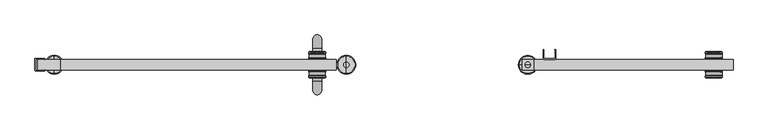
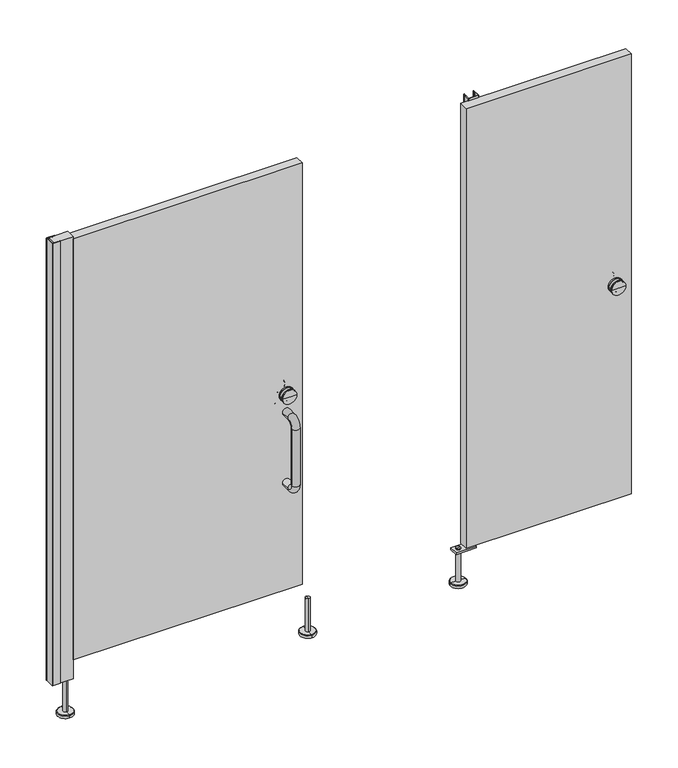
"""IFC4 building model written with IfcOpenShell, lengths in millimetres: proxy geometry, Partition_EuroStyle-Bradley_Corp-ADAStall_1StandardStall-LOFT : Partition_EuroStyle-Bradley_Corp-ADAStall_1StandardStall-LOFT."""

from ifc_helpers import new_model, si_unit, point, frame, frame_2d, origin, place, context, project, spatial, polyline, circle_curve, ellipse_curve, trimmed, segment, composite_curve, outline, extrude, source, transform, mapped, element, save
from ifc_brep_helpers import plane_surface, cylinder_surface, revolved_surface, advanced_brep


def specialty_equipment_b5675cf3(model_context):
    return source(origin(), model_context, "Body", "SolidModel", [
        extrude(outline(polyline([(146.0000008, 1477.4203258), (138.0669895, 1477.4203258), (138.0669895, 1557.2675589), (146.0000008, 1557.1689968), (146.0000008, 1477.4203258)])), frame((0.0, -1559.4621549, 0.0), z_axis=(0.0, 1.0, 0.0), x_axis=(0.0, 0.0, 1.0)), (0.0, 0.0, 1.0), 34.925),
        advanced_brep(
        [(1505.0203248, -1541.9996549, 150.0000008), (1487.0203255, -1541.9996549, 150.0000008), (1487.0203255, -1541.9996549, 12.0000001), (1505.0203248, -1541.9996549, 12.0000001), (1496.0203251, -1541.9996549, 150.0000008), (1527.0203241, -1541.9996549, 0.0), (1465.0203262, -1541.9996549, 0.0), (1496.0203251, -1541.9996549, 0.0), (1527.0203241, -1541.9996549, 10.0000001), (1465.0203262, -1541.9996549, 10.0000001), (1525.0179122, -1541.9996549, 12.0000001), (1467.0227381, -1541.9996549, 12.0000001)],
        [
            (0, 1, circle_curve(frame((1496.0203251, -1541.9996549, 150.0000008), z_axis=(0.0, 0.0, -1.0), x_axis=(-1.0, 0.0, 0.0)), 8.9999997)),
            (1, 2),
            (2, 3, circle_curve(frame((1496.0203251, -1541.9996549, 12.0000001), z_axis=(0.0, 0.0, 1.0), x_axis=(-1.0, 0.0, 0.0)), 8.9999997)),
            (3, 0),
            (1, 0, circle_curve(frame((1496.0203251, -1541.9996549, 150.0000008), z_axis=(0.0, 0.0, -1.0), x_axis=(-1.0, 0.0, 0.0)), 8.9999997)),
            (3, 2, circle_curve(frame((1496.0203251, -1541.9996549, 12.0000001), z_axis=(0.0, 0.0, 1.0), x_axis=(-1.0, 0.0, 0.0)), 8.9999997)),
            (4, 1),
            (0, 4),
            (5, 6, circle_curve(frame((1496.0203251, -1541.9996549, 0.0), z_axis=(0.0, 0.0, -1.0), x_axis=(-1.0, 0.0, 0.0)), 30.9999989)),
            (6, 7),
            (7, 5),
            (6, 5, circle_curve(frame((1496.0203251, -1541.9996549, 0.0), z_axis=(0.0, 0.0, -1.0), x_axis=(-1.0, 0.0, 0.0)), 30.9999989)),
            (8, 9, circle_curve(frame((1496.0203251, -1541.9996549, 10.0000001), z_axis=(0.0, 0.0, -1.0), x_axis=(-1.0, 0.0, 0.0)), 30.9999989)),
            (9, 6),
            (5, 8),
            (9, 8, circle_curve(frame((1496.0203251, -1541.9996549, 10.0000001), z_axis=(0.0, 0.0, -1.0), x_axis=(-1.0, 0.0, 0.0)), 30.9999989)),
            (10, 11, circle_curve(frame((1496.0203251, -1541.9996549, 12.0000001), z_axis=(0.0, 0.0, -1.0), x_axis=(-1.0, 0.0, 0.0)), 28.997587)),
            (11, 9),
            (8, 10),
            (11, 10, circle_curve(frame((1496.0203251, -1541.9996549, 12.0000001), z_axis=(0.0, 0.0, -1.0), x_axis=(-1.0, 0.0, 0.0)), 28.997587)),
            (2, 11),
            (10, 3),
        ],
        [
            cylinder_surface(frame((1496.0203251, -1541.9996549, 0.0), z_axis=(0.0, 0.0, 1.0), x_axis=(-1.0, 0.0, 0.0)), 8.9999997),
            plane_surface(frame((1496.0203251, -1541.9996549, 150.0000008), z_axis=(0.0, 0.0, 1.0), x_axis=(-1.0, 0.0, 0.0))),
            plane_surface(frame((1496.0203251, -1541.9996549, 0.0), z_axis=(0.0, 0.0, -1.0), x_axis=(-1.0, 0.0, 0.0))),
            cylinder_surface(frame((1496.0203251, -1541.9996549, 0.0), z_axis=(0.0, 0.0, 1.0), x_axis=(-1.0, 0.0, 0.0)), 30.9999989),
            revolved_surface(polyline([(1465.0203262, -1541.9996549, 10.0000001), (1467.0227381, -1541.9996549, 12.0000001)]), (1496.0203251, -1541.9996549, 0.0), (0.0, 0.0, 1.0)),
            plane_surface(frame((1496.0203251, -1541.9996549, 12.0000001), z_axis=(0.0, 0.0, 1.0), x_axis=(-1.0, 0.0, 0.0))),
        ],
        [
            (0, [[1, 2, 3, 4]]),
            (0, [[5, -4, 6, -2]]),
            (1, [[7, -1, 8]]),
            (1, [[-8, -5, -7]]),
            (2, [[9, 10, 11]]),
            (2, [[12, -11, -10]]),
            (3, [[13, 14, -9, 15]]),
            (3, [[16, -15, -12, -14]]),
            (4, [[17, 18, -13, 19]]),
            (4, [[20, -19, -16, -18]]),
            (5, [[-3, 21, -17, 22]]),
            (5, [[-6, -22, -20, -21]]),
        ],
    ),
        extrude(outline(composite_curve([segment(polyline([(1546.918717, -1491.4999998), (1548.4173026, -1491.4999998)]), True, "CONTINUOUS"), segment(trimmed(circle_curve(frame_2d((1548.4137352, -1492.4990918)), 0.9990984), [point((1548.4173026, -1491.4999998))], [point((1548.8873879, -1493.3787798))], False, "CARTESIAN"), True, "CONTINUOUS"), segment(polyline([(1548.8873879, -1493.3787798), (1548.7662779, -1500.6424298)]), True, "CONTINUOUS"), segment(trimmed(circle_curve(frame_2d((1548.248732, -1501.4999449)), 1.0015917), [point((1548.7662779, -1500.6424298))], [point((1548.7373979, -1502.3742398))], False, "CARTESIAN"), True, "CONTINUOUS"), segment(polyline([(1548.7373979, -1502.3742398), (1548.4433424, -1520.0104531)]), True, "CONTINUOUS"), segment(trimmed(circle_curve(frame_2d((1550.4435342, -1519.9997796)), 2.0002204), [point((1548.4433424, -1520.0104531))], [point((1550.4435342, -1522.0))], True, "CARTESIAN"), True, "CONTINUOUS"), segment(polyline([(1550.4435342, -1522.0), (1584.3278332, -1522.0)]), True, "CONTINUOUS"), segment(trimmed(circle_curve(frame_2d((1584.3768528, -1520.0009061)), 1.9996948), [point((1584.3278332, -1522.0))], [point((1586.3765475, -1520.0))], True, "CARTESIAN"), True, "CONTINUOUS"), segment(polyline([(1586.3765475, -1520.0), (1586.0824961, -1502.3739987)]), True, "CONTINUOUS"), segment(trimmed(circle_curve(frame_2d((1586.5715932, -1501.4999449)), 1.0015917), [point((1586.0824961, -1502.3739987))], [point((1586.0540473, -1500.6424298))], False, "CARTESIAN"), True, "CONTINUOUS"), segment(polyline([(1586.0540473, -1500.6424298), (1585.9329373, -1493.3787798)]), True, "CONTINUOUS"), segment(trimmed(circle_curve(frame_2d((1586.4065899, -1492.4990918)), 0.9990984), [point((1585.9329373, -1493.3787798))], [point((1586.4030225, -1491.4999998))], False, "CARTESIAN"), True, "CONTINUOUS"), segment(polyline([(1586.4030225, -1491.4999998), (1587.9016081, -1491.4999998), (1588.4099473, -1521.97082)]), True, "CONTINUOUS"), segment(trimmed(circle_curve(frame_2d((1586.3807672, -1521.97082)), 2.02918), [point((1588.4099473, -1521.97082))], [point((1586.3807672, -1524.0))], False, "CARTESIAN"), True, "CONTINUOUS"), segment(polyline([(1586.3807672, -1524.0), (1548.4395579, -1524.0)]), True, "CONTINUOUS"), segment(trimmed(circle_curve(frame_2d((1548.4395579, -1521.97082)), 2.02918), [point((1548.4395579, -1524.0))], [point((1546.4103779, -1521.97082))], False, "CARTESIAN"), True, "CONTINUOUS"), segment(polyline([(1546.4103779, -1521.97082), (1546.918717, -1491.4999998)]), True, "CONTINUOUS")], self_intersect=False)), frame((0.0, 0.0, 150.0), z_axis=(0.0, 0.0, 1.0), x_axis=(1.0, 0.0, 0.0)), (0.0, 0.0, 1.0), 1855.0),
        advanced_brep(
        [(787.6, -1524.0, 975.0), (817.6, -1524.0, 975.0), (787.6, -1524.0, 679.0), (817.6, -1524.0, 679.0), (817.6, -1488.0, 975.0), (787.6, -1488.0, 975.0), (817.6, -1458.0, 945.0), (817.6, -1458.0, 709.0), (787.6, -1458.0, 709.0), (787.6, -1458.0, 945.0), (817.6, -1488.0, 679.0), (787.6, -1488.0, 679.0)],
        [
            (0, 1, circle_curve(frame((802.6, -1524.0, 975.0), z_axis=(0.0, -1.0, 0.0), x_axis=(1.0000000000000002, 0.0, 0.0)), 15.0)),
            (1, 0, circle_curve(frame((802.6, -1524.0, 975.0), z_axis=(0.0, -1.0, 0.0), x_axis=(1.0000000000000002, 0.0, 0.0)), 15.0)),
            (2, 3, circle_curve(frame((802.6, -1524.0, 679.0), z_axis=(0.0, -1.0, 0.0), x_axis=(1.0000000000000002, 0.0, 0.0)), 15.0)),
            (3, 2, circle_curve(frame((802.6, -1524.0, 679.0), z_axis=(0.0, -1.0, 0.0), x_axis=(1.0000000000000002, 0.0, 0.0)), 15.0)),
            (1, 4),
            (4, 5, circle_curve(frame((802.6, -1488.0, 975.0), z_axis=(0.0, -1.0, 0.0), x_axis=(1.0000000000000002, 0.0, 0.0)), 15.0)),
            (5, 0),
            (5, 4, circle_curve(frame((802.6, -1488.0, 975.0), z_axis=(0.0, -1.0, 0.0), x_axis=(1.0000000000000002, 0.0, 0.0)), 15.0)),
            (6, 7),
            (7, 8, circle_curve(frame((802.6, -1458.0, 709.0), z_axis=(0.0, 0.0, 1.0), x_axis=(1.0000000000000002, 0.0, 0.0)), 15.0)),
            (8, 9),
            (9, 6, circle_curve(frame((802.6, -1458.0, 945.0), z_axis=(0.0, 0.0, -1.0), x_axis=(1.0000000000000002, 0.0, 0.0)), 15.0)),
            (8, 7, circle_curve(frame((802.6, -1458.0, 709.0), z_axis=(0.0, 0.0, 1.0), x_axis=(1.0000000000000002, 0.0, 0.0)), 15.0)),
            (6, 9, circle_curve(frame((802.6, -1458.0, 945.0), z_axis=(0.0, 0.0, -1.0), x_axis=(1.0000000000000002, 0.0, 0.0)), 15.0)),
            (10, 3),
            (2, 11),
            (11, 10, circle_curve(frame((802.6, -1488.0, 679.0), z_axis=(0.0, -1.0, 0.0), x_axis=(1.0000000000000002, 0.0, 0.0)), 15.0)),
            (10, 11, circle_curve(frame((802.6, -1488.0, 679.0), z_axis=(0.0, -1.0, 0.0), x_axis=(1.0000000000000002, 0.0, 0.0)), 15.0)),
            (9, 5, circle_curve(frame((787.6, -1488.0, 945.0), z_axis=(1.0, 0.0, 0.0), x_axis=(0.0, 0.0, 1.0)), 30.0)),
            (4, 6, circle_curve(frame((817.6, -1488.0, 945.0), z_axis=(-1.0, 0.0, 0.0), x_axis=(0.0, 0.0, 1.0)), 30.0)),
            (11, 8, circle_curve(frame((787.6, -1488.0, 709.0), z_axis=(1.0, 0.0, 0.0), x_axis=(0.0, 1.0000000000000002, 0.0)), 30.0)),
            (7, 10, circle_curve(frame((817.6, -1488.0, 709.0), z_axis=(-1.0, 0.0, 0.0), x_axis=(0.0, 1.0000000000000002, 0.0)), 30.0)),
        ],
        [
            plane_surface(frame((802.6, -1524.0, 975.0), z_axis=(0.0, -1.0, 0.0), x_axis=(1.0, 0.0, 0.0))),
            plane_surface(frame((802.6, -1524.0, 679.0), z_axis=(0.0, -1.0, 0.0), x_axis=(1.0, 0.0, 0.0))),
            cylinder_surface(frame((802.6, -1524.0, 975.0), z_axis=(0.0, -1.0000000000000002, 0.0), x_axis=(1.0000000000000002, 0.0, 0.0)), 15.0),
            cylinder_surface(frame((802.6, -1458.0, 945.0), z_axis=(0.0, 0.0, 1.0), x_axis=(1.0000000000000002, 0.0, 0.0)), 15.0),
            cylinder_surface(frame((802.6, -1488.0, 679.0), z_axis=(0.0, 1.0000000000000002, 0.0), x_axis=(1.0000000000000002, 0.0, 0.0)), 15.0),
            revolved_surface(trimmed(ellipse_curve(frame((802.6, -1488.0, 975.0), z_axis=(0.0, 1.0000000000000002, 0.0), x_axis=(1.0000000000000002, 0.0, 0.0)), 15.0, 15.0), [point((787.6, -1488.0, 975.0))], [point((817.6, -1488.0, 975.0))], True, "CARTESIAN"), (802.6, -1488.0, 945.0), (1.0000000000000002, 0.0, 0.0)),
            revolved_surface(trimmed(ellipse_curve(frame((802.6, -1488.0, 975.0), z_axis=(0.0, 1.0000000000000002, 0.0), x_axis=(1.0000000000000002, 0.0, 0.0)), 15.0, 15.0), [point((817.6, -1488.0, 975.0))], [point((787.6, -1488.0, 975.0))], True, "CARTESIAN"), (802.6, -1488.0, 945.0), (1.0000000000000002, 0.0, 0.0)),
            revolved_surface(trimmed(ellipse_curve(frame((802.6, -1458.0, 709.0), z_axis=(0.0, 0.0, -1.0), x_axis=(1.0000000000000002, 0.0, 0.0)), 15.0, 15.0), [point((787.6, -1458.0, 709.0))], [point((817.6, -1458.0, 709.0))], True, "CARTESIAN"), (802.6, -1488.0, 709.0), (1.0000000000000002, 0.0, 0.0)),
            revolved_surface(trimmed(ellipse_curve(frame((802.6, -1458.0, 709.0), z_axis=(0.0, 0.0, -1.0), x_axis=(1.0000000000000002, 0.0, 0.0)), 15.0, 15.0), [point((817.6, -1458.0, 709.0))], [point((787.6, -1458.0, 709.0))], True, "CARTESIAN"), (802.6, -1488.0, 709.0), (1.0000000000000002, 0.0, 0.0)),
        ],
        [
            (0, [[1, 2]]),
            (1, [[3, 4]]),
            (2, [[5, 6, 7, -2]]),
            (2, [[-7, 8, -5, -1]]),
            (3, [[9, 10, 11, 12]]),
            (3, [[-11, 13, -9, 14]]),
            (4, [[15, -3, 16, 17]]),
            (4, [[-16, -4, -15, 18]]),
            (5, [[-12, 19, -6, 20]]),
            (6, [[-14, -20, -8, -19]]),
            (7, [[-17, 21, -10, 22]]),
            (8, [[-18, -22, -13, -21]]),
        ],
    ),
        advanced_brep(
        [(787.6, -1560.0203251, 975.0), (817.6, -1560.0203251, 975.0), (787.6, -1560.0203251, 679.0), (817.6, -1560.0203251, 679.0), (787.6, -1596.0203251, 975.0), (817.6, -1596.0203251, 975.0), (817.6, -1626.0203251, 945.0), (787.6, -1626.0203251, 945.0), (787.6, -1626.0203251, 709.0), (817.6, -1626.0203251, 709.0), (817.6, -1596.0203251, 679.0), (787.6, -1596.0203251, 679.0)],
        [
            (0, 1, circle_curve(frame((802.6, -1560.0203251, 975.0), z_axis=(0.0, 1.0, 0.0), x_axis=(1.0000000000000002, 0.0, 0.0)), 15.0)),
            (1, 0, circle_curve(frame((802.6, -1560.0203251, 975.0), z_axis=(0.0, 1.0, 0.0), x_axis=(1.0000000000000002, 0.0, 0.0)), 15.0)),
            (2, 3, circle_curve(frame((802.6, -1560.0203251, 679.0), z_axis=(0.0, 1.0, 0.0), x_axis=(1.0000000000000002, 0.0, 0.0)), 15.0)),
            (3, 2, circle_curve(frame((802.6, -1560.0203251, 679.0), z_axis=(0.0, 1.0, 0.0), x_axis=(1.0000000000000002, 0.0, 0.0)), 15.0)),
            (0, 4),
            (4, 5, circle_curve(frame((802.6, -1596.0203251, 975.0), z_axis=(0.0, 1.0, 0.0), x_axis=(1.0000000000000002, 0.0, 0.0)), 15.0)),
            (5, 1),
            (5, 4, circle_curve(frame((802.6, -1596.0203251, 975.0), z_axis=(0.0, 1.0, 0.0), x_axis=(1.0000000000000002, 0.0, 0.0)), 15.0)),
            (6, 7, circle_curve(frame((802.6, -1626.0203251, 945.0), z_axis=(0.0, 0.0, -1.0), x_axis=(1.0000000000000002, 0.0, 0.0)), 15.0)),
            (7, 8),
            (8, 9, circle_curve(frame((802.6, -1626.0203251, 709.0), z_axis=(0.0, 0.0, 1.0), x_axis=(1.0000000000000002, 0.0, 0.0)), 15.0)),
            (9, 6),
            (7, 6, circle_curve(frame((802.6, -1626.0203251, 945.0), z_axis=(0.0, 0.0, -1.0), x_axis=(1.0000000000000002, 0.0, 0.0)), 15.0)),
            (9, 8, circle_curve(frame((802.6, -1626.0203251, 709.0), z_axis=(0.0, 0.0, 1.0), x_axis=(1.0000000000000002, 0.0, 0.0)), 15.0)),
            (10, 11, circle_curve(frame((802.6, -1596.0203251, 679.0), z_axis=(0.0, 1.0, 0.0), x_axis=(1.0000000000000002, 0.0, 0.0)), 15.0)),
            (11, 2),
            (3, 10),
            (11, 10, circle_curve(frame((802.6, -1596.0203251, 679.0), z_axis=(0.0, 1.0, 0.0), x_axis=(1.0000000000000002, 0.0, 0.0)), 15.0)),
            (6, 5, circle_curve(frame((817.6, -1596.0203251, 945.0), z_axis=(-1.0, 0.0, 0.0), x_axis=(0.0, 0.0, 1.0)), 30.0)),
            (4, 7, circle_curve(frame((787.6, -1596.0203251, 945.0), z_axis=(1.0, 0.0, 0.0), x_axis=(0.0, 0.0, 1.0)), 30.0)),
            (10, 9, circle_curve(frame((817.6, -1596.0203251, 709.0), z_axis=(-1.0, 0.0, 0.0), x_axis=(0.0, -1.0000000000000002, 0.0)), 30.0)),
            (8, 11, circle_curve(frame((787.6, -1596.0203251, 709.0), z_axis=(1.0, 0.0, 0.0), x_axis=(0.0, -1.0000000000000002, 0.0)), 30.0)),
        ],
        [
            plane_surface(frame((802.6, -1560.0203251, 975.0), z_axis=(0.0, 1.0, 0.0), x_axis=(1.0, 0.0, 0.0))),
            plane_surface(frame((802.6, -1560.0203251, 679.0), z_axis=(0.0, 1.0, 0.0), x_axis=(1.0, 0.0, 0.0))),
            cylinder_surface(frame((802.6, -1560.0203251, 975.0), z_axis=(0.0, 1.0000000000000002, 0.0), x_axis=(1.0000000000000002, 0.0, 0.0)), 15.0),
            cylinder_surface(frame((802.6, -1626.0203251, 945.0), z_axis=(0.0, 0.0, 1.0), x_axis=(1.0000000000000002, 0.0, 0.0)), 15.0),
            cylinder_surface(frame((802.6, -1596.0203251, 679.0), z_axis=(0.0, -1.0000000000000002, 0.0), x_axis=(1.0000000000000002, 0.0, 0.0)), 15.0),
            revolved_surface(trimmed(ellipse_curve(frame((802.6, -1596.0203251, 975.0), z_axis=(0.0, 1.0000000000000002, 0.0), x_axis=(1.0000000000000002, 0.0, 0.0)), 15.0, 15.0), [point((787.6, -1596.0203251, 975.0))], [point((817.6, -1596.0203251, 975.0))], True, "CARTESIAN"), (802.6, -1596.0203251, 945.0), (1.0000000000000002, 0.0, 0.0)),
            revolved_surface(trimmed(ellipse_curve(frame((802.6, -1596.0203251, 975.0), z_axis=(0.0, 1.0000000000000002, 0.0), x_axis=(1.0000000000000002, 0.0, 0.0)), 15.0, 15.0), [point((817.6, -1596.0203251, 975.0))], [point((787.6, -1596.0203251, 975.0))], True, "CARTESIAN"), (802.6, -1596.0203251, 945.0), (1.0000000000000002, 0.0, 0.0)),
            revolved_surface(trimmed(ellipse_curve(frame((802.6, -1626.0203251, 709.0), z_axis=(0.0, 0.0, 1.0), x_axis=(1.0000000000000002, 0.0, 0.0)), 15.0, 15.0), [point((787.6, -1626.0203251, 709.0))], [point((817.6, -1626.0203251, 709.0))], True, "CARTESIAN"), (802.6, -1596.0203251, 709.0), (1.0000000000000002, 0.0, 0.0)),
            revolved_surface(trimmed(ellipse_curve(frame((802.6, -1626.0203251, 709.0), z_axis=(0.0, 0.0, 1.0), x_axis=(1.0000000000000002, 0.0, 0.0)), 15.0, 15.0), [point((817.6, -1626.0203251, 709.0))], [point((787.6, -1626.0203251, 709.0))], True, "CARTESIAN"), (802.6, -1596.0203251, 709.0), (1.0000000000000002, 0.0, 0.0)),
        ],
        [
            (0, [[1, 2]]),
            (1, [[3, 4]]),
            (2, [[-1, 5, 6, 7]]),
            (2, [[-2, -7, 8, -5]]),
            (3, [[9, 10, 11, 12]]),
            (3, [[13, -12, 14, -10]]),
            (4, [[15, 16, -4, 17]]),
            (4, [[18, -17, -3, -16]]),
            (5, [[19, -6, 20, -9]]),
            (6, [[-20, -8, -19, -13]]),
            (7, [[21, -11, 22, -15]]),
            (8, [[-22, -14, -21, -18]]),
        ],
    ),
        advanced_brep(
        [(774.025, -1524.0203251, 1050.0), (831.175, -1524.0203251, 1050.0), (802.6, -1524.0203251, 1050.0), (774.025, -1519.2578251, 1050.0), (831.175, -1519.2578251, 1050.0), (774.025, -1500.2078251, 1050.0), (831.175, -1500.2078251, 1050.0), (831.175, -1504.9703251, 1050.0), (774.025, -1504.9703251, 1050.0), (829.5875, -1506.5578251, 1050.0), (775.6125, -1506.5578251, 1050.0), (829.5875, -1517.6703251, 1050.0), (775.6125, -1517.6703251, 1050.0), (802.6, -1498.6203251, 1050.0)],
        [
            (0, 1, circle_curve(frame((802.6, -1524.0203251, 1050.0), z_axis=(0.0, -1.0, 0.0), x_axis=(1.0000000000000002, 0.0, 0.0)), 28.575)),
            (1, 2),
            (2, 0),
            (1, 0, circle_curve(frame((802.6, -1524.0203251, 1050.0), z_axis=(0.0, -1.0, 0.0), x_axis=(1.0000000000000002, 0.0, 0.0)), 28.575)),
            (3, 4, circle_curve(frame((802.6, -1519.2578251, 1050.0), z_axis=(0.0, -1.0, 0.0), x_axis=(1.0000000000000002, 0.0, 0.0)), 28.575)),
            (4, 1),
            (0, 3),
            (4, 3, circle_curve(frame((802.6, -1519.2578251, 1050.0), z_axis=(0.0, -1.0, 0.0), x_axis=(1.0000000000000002, 0.0, 0.0)), 28.575)),
            (5, 6, circle_curve(frame((802.6, -1500.2078251, 1050.0), z_axis=(0.0, -1.0, 0.0), x_axis=(1.0000000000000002, 0.0, 0.0)), 28.575)),
            (6, 7),
            (7, 8, circle_curve(frame((802.6, -1504.9703251, 1050.0), z_axis=(0.0, 1.0, 0.0), x_axis=(1.0000000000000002, 0.0, 0.0)), 28.575)),
            (8, 5),
            (6, 5, circle_curve(frame((802.6, -1500.2078251, 1050.0), z_axis=(0.0, -1.0, 0.0), x_axis=(1.0000000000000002, 0.0, 0.0)), 28.575)),
            (8, 7, circle_curve(frame((802.6, -1504.9703251, 1050.0), z_axis=(0.0, 1.0, 0.0), x_axis=(1.0000000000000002, 0.0, 0.0)), 28.575)),
            (7, 9, circle_curve(frame((831.175, -1506.5578251, 1050.0), z_axis=(0.0, 0.0, 1.0), x_axis=(1.0000000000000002, 0.0, 0.0)), 1.5875)),
            (9, 10, circle_curve(frame((802.6, -1506.5578251, 1050.0), z_axis=(0.0, 1.0, 0.0), x_axis=(1.0000000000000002, 0.0, 0.0)), 26.9875)),
            (10, 8, circle_curve(frame((774.025, -1506.5578251, 1050.0), z_axis=(0.0, 0.0, 1.0), x_axis=(-1.0000000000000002, 0.0, 0.0)), 1.5875)),
            (10, 9, circle_curve(frame((802.6, -1506.5578251, 1050.0), z_axis=(0.0, 1.0, 0.0), x_axis=(1.0000000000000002, 0.0, 0.0)), 26.9875)),
            (9, 11),
            (11, 12, circle_curve(frame((802.6, -1517.6703251, 1050.0), z_axis=(0.0, 1.0, 0.0), x_axis=(1.0000000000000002, 0.0, 0.0)), 26.9875)),
            (12, 10),
            (12, 11, circle_curve(frame((802.6, -1517.6703251, 1050.0), z_axis=(0.0, 1.0, 0.0), x_axis=(1.0000000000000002, 0.0, 0.0)), 26.9875)),
            (11, 4, circle_curve(frame((831.175, -1517.6703251, 1050.0), z_axis=(0.0, 0.0, 1.0), x_axis=(1.0000000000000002, 0.0, 0.0)), 1.5875)),
            (3, 12, circle_curve(frame((774.025, -1517.6703251, 1050.0), z_axis=(0.0, 0.0, 1.0), x_axis=(-1.0000000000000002, 0.0, 0.0)), 1.5875)),
            (13, 6, circle_curve(frame((806.2941234, -1690.0948544, 1050.0), z_axis=(0.0, 0.0, -1.0), x_axis=(1.0000000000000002, 0.0, 0.0)), 191.5101613)),
            (5, 13, circle_curve(frame((798.9058766, -1690.0948544, 1050.0), z_axis=(0.0, 0.0, -1.0), x_axis=(-1.0000000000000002, 0.0, 0.0)), 191.5101613)),
        ],
        [
            plane_surface(frame((802.6, -1524.0203251, 1050.0), z_axis=(0.0, -1.0, 0.0), x_axis=(1.0, 0.0, 0.0))),
            cylinder_surface(frame((802.6, -1524.0203251, 1050.0), z_axis=(0.0, 1.0000000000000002, 0.0), x_axis=(1.0000000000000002, 0.0, 0.0)), 28.575),
            revolved_surface(trimmed(ellipse_curve(frame((831.175, -1506.5578251, 1050.0), z_axis=(0.0, 0.0, -1.0), x_axis=(1.0000000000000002, 0.0, 0.0)), 1.5875, 1.5875), [point((829.5875, -1506.5578251, 1050.0))], [point((831.175, -1504.9703251, 1050.0))], True, "CARTESIAN"), (802.6, -1524.0203251, 1050.0), (0.0, 1.0000000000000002, 0.0)),
            cylinder_surface(frame((802.6, -1524.0203251, 1050.0), z_axis=(0.0, 1.0000000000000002, 0.0), x_axis=(1.0000000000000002, 0.0, 0.0)), 26.9875),
            revolved_surface(trimmed(ellipse_curve(frame((831.175, -1517.6703251, 1050.0), z_axis=(0.0, 0.0, -1.0), x_axis=(1.0000000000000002, 0.0, 0.0)), 1.5875, 1.5875), [point((831.175, -1519.2578251, 1050.0))], [point((829.5875, -1517.6703251, 1050.0))], True, "CARTESIAN"), (802.6, -1524.0203251, 1050.0), (0.0, 1.0000000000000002, 0.0)),
            revolved_surface(trimmed(ellipse_curve(frame((806.2941234, -1690.0948544, 1050.0), z_axis=(0.0, 0.0, 1.0), x_axis=(1.0000000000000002, 0.0, 0.0)), 191.5101613, 191.5101613), [point((831.175, -1500.2078251, 1050.0))], [point((802.6, -1498.6203251, 1050.0))], True, "CARTESIAN"), (802.6, -1524.0203251, 1050.0), (0.0, 1.0000000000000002, 0.0)),
        ],
        [
            (0, [[1, 2, 3]]),
            (0, [[4, -3, -2]]),
            (1, [[5, 6, -1, 7]]),
            (1, [[8, -7, -4, -6]]),
            (1, [[9, 10, 11, 12]]),
            (1, [[13, -12, 14, -10]]),
            (2, [[-11, 15, 16, 17]]),
            (2, [[-14, -17, 18, -15]]),
            (3, [[-16, 19, 20, 21]]),
            (3, [[-18, -21, 22, -19]]),
            (4, [[-20, 23, -5, 24]]),
            (4, [[-22, -24, -8, -23]]),
            (5, [[25, -9, 26]]),
            (5, [[-26, -13, -25]]),
        ],
    ),
        advanced_brep(
        [(802.6, -1560.0203251, 1050.0), (831.175, -1560.0203251, 1050.0), (774.025, -1560.0203251, 1050.0), (831.175, -1564.7828251, 1050.0), (774.025, -1564.7828251, 1050.0), (774.025, -1579.0703251, 1050.0), (831.175, -1579.0703251, 1050.0), (831.175, -1583.8328251, 1050.0), (774.025, -1583.8328251, 1050.0), (775.6125, -1577.4828251, 1050.0), (829.5875, -1577.4828251, 1050.0), (775.6125, -1566.3703251, 1050.0), (829.5875, -1566.3703251, 1050.0), (802.6, -1585.4203251, 1050.0)],
        [
            (0, 1),
            (1, 2, circle_curve(frame((802.6, -1560.0203251, 1050.0), z_axis=(0.0, 1.0, 0.0), x_axis=(1.0000000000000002, 0.0, 0.0)), 28.575)),
            (2, 0),
            (2, 1, circle_curve(frame((802.6, -1560.0203251, 1050.0), z_axis=(0.0, 1.0, 0.0), x_axis=(1.0000000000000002, 0.0, 0.0)), 28.575)),
            (1, 3),
            (3, 4, circle_curve(frame((802.6, -1564.7828251, 1050.0), z_axis=(0.0, 1.0, 0.0), x_axis=(1.0000000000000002, 0.0, 0.0)), 28.575)),
            (4, 2),
            (4, 3, circle_curve(frame((802.6, -1564.7828251, 1050.0), z_axis=(0.0, 1.0, 0.0), x_axis=(1.0000000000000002, 0.0, 0.0)), 28.575)),
            (5, 6, circle_curve(frame((802.6, -1579.0703251, 1050.0), z_axis=(0.0, -1.0, 0.0), x_axis=(1.0000000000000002, 0.0, 0.0)), 28.575)),
            (6, 7),
            (7, 8, circle_curve(frame((802.6, -1583.8328251, 1050.0), z_axis=(0.0, 1.0, 0.0), x_axis=(1.0000000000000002, 0.0, 0.0)), 28.575)),
            (8, 5),
            (6, 5, circle_curve(frame((802.6, -1579.0703251, 1050.0), z_axis=(0.0, -1.0, 0.0), x_axis=(1.0000000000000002, 0.0, 0.0)), 28.575)),
            (8, 7, circle_curve(frame((802.6, -1583.8328251, 1050.0), z_axis=(0.0, 1.0, 0.0), x_axis=(1.0000000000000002, 0.0, 0.0)), 28.575)),
            (9, 10, circle_curve(frame((802.6, -1577.4828251, 1050.0), z_axis=(0.0, -1.0, 0.0), x_axis=(1.0000000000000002, 0.0, 0.0)), 26.9875)),
            (10, 6, circle_curve(frame((831.175, -1577.4828251, 1050.0), z_axis=(0.0, 0.0, 1.0), x_axis=(1.0000000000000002, 0.0, 0.0)), 1.5875)),
            (5, 9, circle_curve(frame((774.025, -1577.4828251, 1050.0), z_axis=(0.0, 0.0, 1.0), x_axis=(-1.0000000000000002, 0.0, 0.0)), 1.5875)),
            (10, 9, circle_curve(frame((802.6, -1577.4828251, 1050.0), z_axis=(0.0, -1.0, 0.0), x_axis=(1.0000000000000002, 0.0, 0.0)), 26.9875)),
            (11, 12, circle_curve(frame((802.6, -1566.3703251, 1050.0), z_axis=(0.0, -1.0, 0.0), x_axis=(1.0000000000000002, 0.0, 0.0)), 26.9875)),
            (12, 10),
            (9, 11),
            (12, 11, circle_curve(frame((802.6, -1566.3703251, 1050.0), z_axis=(0.0, -1.0, 0.0), x_axis=(1.0000000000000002, 0.0, 0.0)), 26.9875)),
            (3, 12, circle_curve(frame((831.175, -1566.3703251, 1050.0), z_axis=(0.0, 0.0, 1.0), x_axis=(1.0000000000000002, 0.0, 0.0)), 1.5875)),
            (11, 4, circle_curve(frame((774.025, -1566.3703251, 1050.0), z_axis=(0.0, 0.0, 1.0), x_axis=(-1.0000000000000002, 0.0, 0.0)), 1.5875)),
            (7, 13, circle_curve(frame((806.2941234, -1393.9457959, 1050.0), z_axis=(0.0, 0.0, -1.0), x_axis=(1.0000000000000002, 0.0, 0.0)), 191.5101613)),
            (13, 8, circle_curve(frame((798.9058766, -1393.9457959, 1050.0), z_axis=(0.0, 0.0, -1.0), x_axis=(-1.0000000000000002, 0.0, 0.0)), 191.5101613)),
        ],
        [
            plane_surface(frame((802.6, -1560.0203251, 1050.0), z_axis=(0.0, 1.0, 0.0), x_axis=(1.0, 0.0, 0.0))),
            cylinder_surface(frame((802.6, -1560.0203251, 1050.0), z_axis=(0.0, 1.0000000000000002, 0.0), x_axis=(1.0000000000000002, 0.0, 0.0)), 28.575),
            revolved_surface(trimmed(ellipse_curve(frame((831.175, -1577.4828251, 1050.0), z_axis=(0.0, 0.0, -1.0), x_axis=(1.0000000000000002, 0.0, 0.0)), 1.5875, 1.5875), [point((831.175, -1579.0703251, 1050.0))], [point((829.5875, -1577.4828251, 1050.0))], True, "CARTESIAN"), (802.6, -1560.0203251, 1050.0), (0.0, 1.0000000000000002, 0.0)),
            cylinder_surface(frame((802.6, -1560.0203251, 1050.0), z_axis=(0.0, 1.0000000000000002, 0.0), x_axis=(1.0000000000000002, 0.0, 0.0)), 26.9875),
            revolved_surface(trimmed(ellipse_curve(frame((831.175, -1566.3703251, 1050.0), z_axis=(0.0, 0.0, -1.0), x_axis=(1.0000000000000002, 0.0, 0.0)), 1.5875, 1.5875), [point((829.5875, -1566.3703251, 1050.0))], [point((831.175, -1564.7828251, 1050.0))], True, "CARTESIAN"), (802.6, -1560.0203251, 1050.0), (0.0, 1.0000000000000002, 0.0)),
            revolved_surface(trimmed(ellipse_curve(frame((806.2941234, -1393.9457959, 1050.0), z_axis=(0.0, 0.0, 1.0), x_axis=(1.0000000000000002, 0.0, 0.0)), 191.5101613, 191.5101613), [point((802.6, -1585.4203251, 1050.0))], [point((831.175, -1583.8328251, 1050.0))], True, "CARTESIAN"), (802.6, -1560.0203251, 1050.0), (0.0, 1.0000000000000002, 0.0)),
        ],
        [
            (0, [[1, 2, 3]]),
            (0, [[-3, 4, -1]]),
            (1, [[-2, 5, 6, 7]]),
            (1, [[-4, -7, 8, -5]]),
            (1, [[9, 10, 11, 12]]),
            (1, [[13, -12, 14, -10]]),
            (2, [[15, 16, -9, 17]]),
            (2, [[18, -17, -13, -16]]),
            (3, [[19, 20, -15, 21]]),
            (3, [[22, -21, -18, -20]]),
            (4, [[-6, 23, -19, 24]]),
            (4, [[-8, -24, -22, -23]]),
            (5, [[-11, 25, 26]]),
            (5, [[-14, -26, -25]]),
        ],
    ),
        extrude(outline(polyline([(-43.0032348, -1524.0), (866.1, -1524.0), (866.1, -1560.0203251), (-43.0032348, -1560.0203251), (-43.0032348, -1524.0)])), frame((0.0, 0.0, 228.6), z_axis=(0.0, 0.0, 1.0), x_axis=(1.0, 0.0, 0.0)), (0.0, 0.0, 1.0), 1767.4),
        advanced_brep(
        [(-63.5018313, -1533.0101629, 150.0000008), (-63.5018313, -1551.0101623, 150.0000008), (-63.5018313, -1551.0101623, 12.0000001), (-63.5018313, -1533.0101629, 12.0000001), (-63.5018313, -1542.0101626, 150.0000008), (-63.5018313, -1511.0101636, 0.0), (-63.5018313, -1573.0101615, 0.0), (-63.5018313, -1542.0101626, 0.0), (-63.5018313, -1511.0101636, 10.0000001), (-63.5018313, -1573.0101615, 10.0000001), (-63.5018313, -1513.0125756, 12.0000001), (-63.5018313, -1571.0077496, 12.0000001)],
        [
            (0, 1, circle_curve(frame((-63.5018313, -1542.0101626, 150.0000008), z_axis=(0.0, 0.0, -1.0), x_axis=(0.0, -1.0, 0.0)), 8.9999997)),
            (1, 2),
            (2, 3, circle_curve(frame((-63.5018313, -1542.0101626, 12.0000001), z_axis=(0.0, 0.0, 1.0), x_axis=(0.0, -1.0, 0.0)), 8.9999997)),
            (3, 0),
            (1, 0, circle_curve(frame((-63.5018313, -1542.0101626, 150.0000008), z_axis=(0.0, 0.0, -1.0), x_axis=(0.0, -1.0, 0.0)), 8.9999997)),
            (3, 2, circle_curve(frame((-63.5018313, -1542.0101626, 12.0000001), z_axis=(0.0, 0.0, 1.0), x_axis=(0.0, -1.0, 0.0)), 8.9999997)),
            (4, 1),
            (0, 4),
            (5, 6, circle_curve(frame((-63.5018313, -1542.0101626, 0.0), z_axis=(0.0, 0.0, -1.0), x_axis=(0.0, -1.0, 0.0)), 30.9999989)),
            (6, 7),
            (7, 5),
            (6, 5, circle_curve(frame((-63.5018313, -1542.0101626, 0.0), z_axis=(0.0, 0.0, -1.0), x_axis=(0.0, -1.0, 0.0)), 30.9999989)),
            (8, 9, circle_curve(frame((-63.5018313, -1542.0101626, 10.0000001), z_axis=(0.0, 0.0, -1.0), x_axis=(0.0, -1.0, 0.0)), 30.9999989)),
            (9, 6),
            (5, 8),
            (9, 8, circle_curve(frame((-63.5018313, -1542.0101626, 10.0000001), z_axis=(0.0, 0.0, -1.0), x_axis=(0.0, -1.0, 0.0)), 30.9999989)),
            (10, 11, circle_curve(frame((-63.5018313, -1542.0101626, 12.0000001), z_axis=(0.0, 0.0, -1.0), x_axis=(0.0, -1.0, 0.0)), 28.997587)),
            (11, 9),
            (8, 10),
            (11, 10, circle_curve(frame((-63.5018313, -1542.0101626, 12.0000001), z_axis=(0.0, 0.0, -1.0), x_axis=(0.0, -1.0, 0.0)), 28.997587)),
            (2, 11),
            (10, 3),
        ],
        [
            cylinder_surface(frame((-63.5018313, -1542.0101626, 0.0), z_axis=(0.0, 0.0, 1.0), x_axis=(0.0, -1.0, 0.0)), 8.9999997),
            plane_surface(frame((-63.5018313, -1542.0101626, 150.0000008), z_axis=(0.0, 0.0, 1.0), x_axis=(0.0, -1.0, 0.0))),
            plane_surface(frame((-63.5018313, -1542.0101626, 0.0), z_axis=(0.0, 0.0, -1.0), x_axis=(0.0, -1.0, 0.0))),
            cylinder_surface(frame((-63.5018313, -1542.0101626, 0.0), z_axis=(0.0, 0.0, 1.0), x_axis=(0.0, -1.0, 0.0)), 30.9999989),
            revolved_surface(polyline([(-63.5018313, -1573.0101615, 10.0000001), (-63.5018313, -1571.0077496, 12.0000001)]), (-63.5018313, -1542.0101626, 0.0), (0.0, 0.0, 1.0)),
            plane_surface(frame((-63.5018313, -1542.0101626, 12.0000001), z_axis=(0.0, 0.0, 1.0), x_axis=(0.0, -1.0, 0.0))),
        ],
        [
            (0, [[1, 2, 3, 4]]),
            (0, [[5, -4, 6, -2]]),
            (1, [[7, -1, 8]]),
            (1, [[-8, -5, -7]]),
            (2, [[9, 10, 11]]),
            (2, [[12, -11, -10]]),
            (3, [[13, 14, -9, 15]]),
            (3, [[16, -15, -12, -14]]),
            (4, [[17, 18, -13, 19]]),
            (4, [[20, -19, -16, -18]]),
            (5, [[-3, 21, -17, 22]]),
            (5, [[-6, -22, -20, -21]]),
        ],
    ),
        extrude(outline(composite_curve([segment(polyline([(-94.4999998, -1521.518717), (-94.4999998, -1523.0173026)]), True, "CONTINUOUS"), segment(trimmed(circle_curve(frame_2d((-95.4990918, -1523.0137352)), 0.9990984), [point((-94.4999998, -1523.0173026))], [point((-96.3787798, -1523.4873879))], False, "CARTESIAN"), True, "CONTINUOUS"), segment(polyline([(-96.3787798, -1523.4873879), (-103.6424298, -1523.3662779)]), True, "CONTINUOUS"), segment(trimmed(circle_curve(frame_2d((-104.4999449, -1522.848732)), 1.0015917), [point((-103.6424298, -1523.3662779))], [point((-105.3742398, -1523.3373979))], False, "CARTESIAN"), True, "CONTINUOUS"), segment(polyline([(-105.3742398, -1523.3373979), (-123.0104531, -1523.0433424)]), True, "CONTINUOUS"), segment(trimmed(circle_curve(frame_2d((-122.9997796, -1525.0435342)), 2.0002204), [point((-123.0104531, -1523.0433424))], [point((-125.0, -1525.0435342))], True, "CARTESIAN"), True, "CONTINUOUS"), segment(polyline([(-125.0, -1525.0435342), (-125.0, -1558.9278332)]), True, "CONTINUOUS"), segment(trimmed(circle_curve(frame_2d((-123.0009061, -1558.9768528)), 1.9996948), [point((-125.0, -1558.9278332))], [point((-123.0, -1560.9765475))], True, "CARTESIAN"), True, "CONTINUOUS"), segment(polyline([(-123.0, -1560.9765475), (-105.3739987, -1560.6824961)]), True, "CONTINUOUS"), segment(trimmed(circle_curve(frame_2d((-104.4999449, -1561.1715932)), 1.0015917), [point((-105.3739987, -1560.6824961))], [point((-103.6424298, -1560.6540473))], False, "CARTESIAN"), True, "CONTINUOUS"), segment(polyline([(-103.6424298, -1560.6540473), (-96.3787798, -1560.5329373)]), True, "CONTINUOUS"), segment(trimmed(circle_curve(frame_2d((-95.4990918, -1561.0065899)), 0.9990984), [point((-96.3787798, -1560.5329373))], [point((-94.4999998, -1561.0030225))], False, "CARTESIAN"), True, "CONTINUOUS"), segment(polyline([(-94.4999998, -1561.0030225), (-94.4999998, -1562.5016081), (-124.97082, -1563.0099473)]), True, "CONTINUOUS"), segment(trimmed(circle_curve(frame_2d((-124.97082, -1560.9807672)), 2.02918), [point((-124.97082, -1563.0099473))], [point((-127.0, -1560.9807672))], False, "CARTESIAN"), True, "CONTINUOUS"), segment(polyline([(-127.0, -1560.9807672), (-127.0, -1523.0395579)]), True, "CONTINUOUS"), segment(trimmed(circle_curve(frame_2d((-124.97082, -1523.0395579)), 2.02918), [point((-127.0, -1523.0395579))], [point((-124.97082, -1521.0103779))], False, "CARTESIAN"), True, "CONTINUOUS"), segment(polyline([(-124.97082, -1521.0103779), (-94.4999998, -1521.518717)]), True, "CONTINUOUS")], self_intersect=False)), frame((0.0, 0.0, 150.0), z_axis=(0.0, 0.0, 1.0), x_axis=(1.0, 0.0, 0.0)), (0.0, 0.0, 1.0), 1855.0),
        extrude(outline(polyline([(-117.000072, -1524.0), (-43.0032348, -1524.0), (-43.0032348, -1560.0203251), (-117.000072, -1560.0203251), (-117.000072, -1524.0)])), frame((0.0, 0.0, 150.0), z_axis=(0.0, 0.0, 1.0), x_axis=(1.0, 0.0, 0.0)), (0.0, 0.0, 1.0), 1855.0),
        advanced_brep(
        [(898.5233172, -1532.9996552, 150.0000008), (898.5233172, -1550.9996545, 150.0000008), (898.5233172, -1550.9996545, 12.0000001), (898.5233172, -1532.9996552, 12.0000001), (898.5233172, -1541.9996549, 150.0000008), (898.5233172, -1510.9996559, 0.0), (898.5233172, -1572.9996538, 0.0), (898.5233172, -1541.9996549, 0.0), (898.5233172, -1510.9996559, 10.0000001), (898.5233172, -1572.9996538, 10.0000001), (898.5233172, -1513.0020678, 12.0000001), (898.5233172, -1570.9972419, 12.0000001)],
        [
            (0, 1, circle_curve(frame((898.5233172, -1541.9996549, 150.0000008), z_axis=(0.0, 0.0, -1.0), x_axis=(0.0, -1.0, 0.0)), 8.9999997)),
            (1, 2),
            (2, 3, circle_curve(frame((898.5233172, -1541.9996549, 12.0000001), z_axis=(0.0, 0.0, 1.0), x_axis=(0.0, -1.0, 0.0)), 8.9999997)),
            (3, 0),
            (1, 0, circle_curve(frame((898.5233172, -1541.9996549, 150.0000008), z_axis=(0.0, 0.0, -1.0), x_axis=(0.0, -1.0, 0.0)), 8.9999997)),
            (3, 2, circle_curve(frame((898.5233172, -1541.9996549, 12.0000001), z_axis=(0.0, 0.0, 1.0), x_axis=(0.0, -1.0, 0.0)), 8.9999997)),
            (4, 1),
            (0, 4),
            (5, 6, circle_curve(frame((898.5233172, -1541.9996549, 0.0), z_axis=(0.0, 0.0, -1.0), x_axis=(0.0, -1.0, 0.0)), 30.9999989)),
            (6, 7),
            (7, 5),
            (6, 5, circle_curve(frame((898.5233172, -1541.9996549, 0.0), z_axis=(0.0, 0.0, -1.0), x_axis=(0.0, -1.0, 0.0)), 30.9999989)),
            (8, 9, circle_curve(frame((898.5233172, -1541.9996549, 10.0000001), z_axis=(0.0, 0.0, -1.0), x_axis=(0.0, -1.0, 0.0)), 30.9999989)),
            (9, 6),
            (5, 8),
            (9, 8, circle_curve(frame((898.5233172, -1541.9996549, 10.0000001), z_axis=(0.0, 0.0, -1.0), x_axis=(0.0, -1.0, 0.0)), 30.9999989)),
            (10, 11, circle_curve(frame((898.5233172, -1541.9996549, 12.0000001), z_axis=(0.0, 0.0, -1.0), x_axis=(0.0, -1.0, 0.0)), 28.997587)),
            (11, 9),
            (8, 10),
            (11, 10, circle_curve(frame((898.5233172, -1541.9996549, 12.0000001), z_axis=(0.0, 0.0, -1.0), x_axis=(0.0, -1.0, 0.0)), 28.997587)),
            (2, 11),
            (10, 3),
        ],
        [
            cylinder_surface(frame((898.5233172, -1541.9996549, 0.0), z_axis=(0.0, 0.0, 1.0), x_axis=(0.0, -1.0, 0.0)), 8.9999997),
            plane_surface(frame((898.5233172, -1541.9996549, 150.0000008), z_axis=(0.0, 0.0, 1.0), x_axis=(0.0, -1.0, 0.0))),
            plane_surface(frame((898.5233172, -1541.9996549, 0.0), z_axis=(0.0, 0.0, -1.0), x_axis=(0.0, -1.0, 0.0))),
            cylinder_surface(frame((898.5233172, -1541.9996549, 0.0), z_axis=(0.0, 0.0, 1.0), x_axis=(0.0, -1.0, 0.0)), 30.9999989),
            revolved_surface(polyline([(898.5233172, -1572.9996538, 10.0000001), (898.5233172, -1570.9972419, 12.0000001)]), (898.5233172, -1541.9996549, 0.0), (0.0, 0.0, 1.0)),
            plane_surface(frame((898.5233172, -1541.9996549, 12.0000001), z_axis=(0.0, 0.0, 1.0), x_axis=(0.0, -1.0, 0.0))),
        ],
        [
            (0, [[1, 2, 3, 4]]),
            (0, [[5, -4, 6, -2]]),
            (1, [[7, -1, 8]]),
            (1, [[-8, -5, -7]]),
            (2, [[9, 10, 11]]),
            (2, [[12, -11, -10]]),
            (3, [[13, 14, -9, 15]]),
            (3, [[16, -15, -12, -14]]),
            (4, [[17, 18, -13, 19]]),
            (4, [[20, -19, -16, -18]]),
            (5, [[-3, 21, -17, 22]]),
            (5, [[-6, -22, -20, -21]]),
        ],
    ),
        advanced_brep(
        [(2080.0451766, -1524.0098174, 1050.0), (2137.1951766, -1524.0098174, 1050.0), (2108.6201766, -1524.0098174, 1050.0), (2080.0451766, -1519.2473174, 1050.0), (2137.1951766, -1519.2473174, 1050.0), (2080.0451766, -1500.1973174, 1050.0), (2137.1951766, -1500.1973174, 1050.0), (2137.1951766, -1504.9598174, 1050.0), (2080.0451766, -1504.9598174, 1050.0), (2135.6076766, -1506.5473174, 1050.0), (2081.6326766, -1506.5473174, 1050.0), (2135.6076766, -1517.6598174, 1050.0), (2081.6326766, -1517.6598174, 1050.0), (2108.6201766, -1498.6098174, 1050.0)],
        [
            (0, 1, circle_curve(frame((2108.6201766, -1524.0098174, 1050.0), z_axis=(0.0, -1.0, 0.0), x_axis=(1.0, 0.0, 0.0)), 28.575)),
            (1, 2),
            (2, 0),
            (1, 0, circle_curve(frame((2108.6201766, -1524.0098174, 1050.0), z_axis=(0.0, -1.0, 0.0), x_axis=(1.0, 0.0, 0.0)), 28.575)),
            (3, 4, circle_curve(frame((2108.6201766, -1519.2473174, 1050.0), z_axis=(0.0, -1.0, 0.0), x_axis=(1.0, 0.0, 0.0)), 28.575)),
            (4, 1),
            (0, 3),
            (4, 3, circle_curve(frame((2108.6201766, -1519.2473174, 1050.0), z_axis=(0.0, -1.0, 0.0), x_axis=(1.0, 0.0, 0.0)), 28.575)),
            (5, 6, circle_curve(frame((2108.6201766, -1500.1973174, 1050.0), z_axis=(0.0, -1.0, 0.0), x_axis=(1.0, 0.0, 0.0)), 28.575)),
            (6, 7),
            (7, 8, circle_curve(frame((2108.6201766, -1504.9598174, 1050.0), z_axis=(0.0, 1.0, 0.0), x_axis=(1.0, 0.0, 0.0)), 28.575)),
            (8, 5),
            (6, 5, circle_curve(frame((2108.6201766, -1500.1973174, 1050.0), z_axis=(0.0, -1.0, 0.0), x_axis=(1.0, 0.0, 0.0)), 28.575)),
            (8, 7, circle_curve(frame((2108.6201766, -1504.9598174, 1050.0), z_axis=(0.0, 1.0, 0.0), x_axis=(1.0, 0.0, 0.0)), 28.575)),
            (7, 9, circle_curve(frame((2137.1951766, -1506.5473174, 1050.0), z_axis=(0.0, 0.0, 1.0), x_axis=(1.0, 0.0, 0.0)), 1.5875)),
            (9, 10, circle_curve(frame((2108.6201766, -1506.5473174, 1050.0), z_axis=(0.0, 1.0, 0.0), x_axis=(1.0, 0.0, 0.0)), 26.9875)),
            (10, 8, circle_curve(frame((2080.0451766, -1506.5473174, 1050.0), z_axis=(0.0, 0.0, 1.0), x_axis=(-1.0, 0.0, 0.0)), 1.5875)),
            (10, 9, circle_curve(frame((2108.6201766, -1506.5473174, 1050.0), z_axis=(0.0, 1.0, 0.0), x_axis=(1.0, 0.0, 0.0)), 26.9875)),
            (9, 11),
            (11, 12, circle_curve(frame((2108.6201766, -1517.6598174, 1050.0), z_axis=(0.0, 1.0, 0.0), x_axis=(1.0, 0.0, 0.0)), 26.9875)),
            (12, 10),
            (12, 11, circle_curve(frame((2108.6201766, -1517.6598174, 1050.0), z_axis=(0.0, 1.0, 0.0), x_axis=(1.0, 0.0, 0.0)), 26.9875)),
            (11, 4, circle_curve(frame((2137.1951766, -1517.6598174, 1050.0), z_axis=(0.0, 0.0, 1.0), x_axis=(1.0, 0.0, 0.0)), 1.5875)),
            (3, 12, circle_curve(frame((2080.0451766, -1517.6598174, 1050.0), z_axis=(0.0, 0.0, 1.0), x_axis=(-1.0, 0.0, 0.0)), 1.5875)),
            (13, 6, circle_curve(frame((2112.3143, -1690.0843466, 1050.0), z_axis=(0.0, 0.0, -1.0), x_axis=(1.0, 0.0, 0.0)), 191.5101613)),
            (5, 13, circle_curve(frame((2104.9260533, -1690.0843466, 1050.0), z_axis=(0.0, 0.0, -1.0), x_axis=(-1.0, 0.0, 0.0)), 191.5101613)),
        ],
        [
            plane_surface(frame((2108.6201766, -1524.0098174, 1050.0), z_axis=(0.0, -1.0, 0.0), x_axis=(1.0, 0.0, 0.0))),
            cylinder_surface(frame((2108.6201766, -1524.0098174, 1050.0), z_axis=(0.0, 1.0, 0.0), x_axis=(1.0, 0.0, 0.0)), 28.575),
            revolved_surface(trimmed(ellipse_curve(frame((2137.1951766, -1506.5473174, 1050.0), z_axis=(0.0, 0.0, -1.0), x_axis=(1.0, 0.0, 0.0)), 1.5875, 1.5875), [point((2135.6076766, -1506.5473174, 1050.0))], [point((2137.1951766, -1504.9598174, 1050.0))], True, "CARTESIAN"), (2108.6201766, -1524.0098174, 1050.0), (0.0, 1.0, 0.0)),
            cylinder_surface(frame((2108.6201766, -1524.0098174, 1050.0), z_axis=(0.0, 1.0, 0.0), x_axis=(1.0, 0.0, 0.0)), 26.9875),
            revolved_surface(trimmed(ellipse_curve(frame((2137.1951766, -1517.6598174, 1050.0), z_axis=(0.0, 0.0, -1.0), x_axis=(1.0, 0.0, 0.0)), 1.5875, 1.5875), [point((2137.1951766, -1519.2473174, 1050.0))], [point((2135.6076766, -1517.6598174, 1050.0))], True, "CARTESIAN"), (2108.6201766, -1524.0098174, 1050.0), (0.0, 1.0, 0.0)),
            revolved_surface(trimmed(ellipse_curve(frame((2112.3143, -1690.0843466, 1050.0), z_axis=(0.0, 0.0, 1.0), x_axis=(1.0, 0.0, 0.0)), 191.5101613, 191.5101613), [point((2137.1951766, -1500.1973174, 1050.0))], [point((2108.6201766, -1498.6098174, 1050.0))], True, "CARTESIAN"), (2108.6201766, -1524.0098174, 1050.0), (0.0, 1.0, 0.0)),
        ],
        [
            (0, [[1, 2, 3]]),
            (0, [[4, -3, -2]]),
            (1, [[5, 6, -1, 7]]),
            (1, [[8, -7, -4, -6]]),
            (1, [[9, 10, 11, 12]]),
            (1, [[13, -12, 14, -10]]),
            (2, [[-11, 15, 16, 17]]),
            (2, [[-14, -17, 18, -15]]),
            (3, [[-16, 19, 20, 21]]),
            (3, [[-18, -21, 22, -19]]),
            (4, [[-20, 23, -5, 24]]),
            (4, [[-22, -24, -8, -23]]),
            (5, [[25, -9, 26]]),
            (5, [[-26, -13, -25]]),
        ],
    ),
        advanced_brep(
        [(2108.6201766, -1560.0098174, 1050.0), (2137.1951766, -1560.0098174, 1050.0), (2080.0451766, -1560.0098174, 1050.0), (2137.1951766, -1564.7723174, 1050.0), (2080.0451766, -1564.7723174, 1050.0), (2080.0451766, -1579.0598174, 1050.0), (2137.1951766, -1579.0598174, 1050.0), (2137.1951766, -1583.8223174, 1050.0), (2080.0451766, -1583.8223174, 1050.0), (2081.6326766, -1577.4723174, 1050.0), (2135.6076766, -1577.4723174, 1050.0), (2081.6326766, -1566.3598174, 1050.0), (2135.6076766, -1566.3598174, 1050.0), (2108.6201766, -1585.4098174, 1050.0)],
        [
            (0, 1),
            (1, 2, circle_curve(frame((2108.6201766, -1560.0098174, 1050.0), z_axis=(0.0, 1.0, 0.0), x_axis=(1.0, 0.0, 0.0)), 28.575)),
            (2, 0),
            (2, 1, circle_curve(frame((2108.6201766, -1560.0098174, 1050.0), z_axis=(0.0, 1.0, 0.0), x_axis=(1.0, 0.0, 0.0)), 28.575)),
            (1, 3),
            (3, 4, circle_curve(frame((2108.6201766, -1564.7723174, 1050.0), z_axis=(0.0, 1.0, 0.0), x_axis=(1.0, 0.0, 0.0)), 28.575)),
            (4, 2),
            (4, 3, circle_curve(frame((2108.6201766, -1564.7723174, 1050.0), z_axis=(0.0, 1.0, 0.0), x_axis=(1.0, 0.0, 0.0)), 28.575)),
            (5, 6, circle_curve(frame((2108.6201766, -1579.0598174, 1050.0), z_axis=(0.0, -1.0, 0.0), x_axis=(1.0, 0.0, 0.0)), 28.575)),
            (6, 7),
            (7, 8, circle_curve(frame((2108.6201766, -1583.8223174, 1050.0), z_axis=(0.0, 1.0, 0.0), x_axis=(1.0, 0.0, 0.0)), 28.575)),
            (8, 5),
            (6, 5, circle_curve(frame((2108.6201766, -1579.0598174, 1050.0), z_axis=(0.0, -1.0, 0.0), x_axis=(1.0, 0.0, 0.0)), 28.575)),
            (8, 7, circle_curve(frame((2108.6201766, -1583.8223174, 1050.0), z_axis=(0.0, 1.0, 0.0), x_axis=(1.0, 0.0, 0.0)), 28.575)),
            (9, 10, circle_curve(frame((2108.6201766, -1577.4723174, 1050.0), z_axis=(0.0, -1.0, 0.0), x_axis=(1.0, 0.0, 0.0)), 26.9875)),
            (10, 6, circle_curve(frame((2137.1951766, -1577.4723174, 1050.0), z_axis=(0.0, 0.0, 1.0), x_axis=(1.0, 0.0, 0.0)), 1.5875)),
            (5, 9, circle_curve(frame((2080.0451766, -1577.4723174, 1050.0), z_axis=(0.0, 0.0, 1.0), x_axis=(-1.0, 0.0, 0.0)), 1.5875)),
            (10, 9, circle_curve(frame((2108.6201766, -1577.4723174, 1050.0), z_axis=(0.0, -1.0, 0.0), x_axis=(1.0, 0.0, 0.0)), 26.9875)),
            (11, 12, circle_curve(frame((2108.6201766, -1566.3598174, 1050.0), z_axis=(0.0, -1.0, 0.0), x_axis=(1.0, 0.0, 0.0)), 26.9875)),
            (12, 10),
            (9, 11),
            (12, 11, circle_curve(frame((2108.6201766, -1566.3598174, 1050.0), z_axis=(0.0, -1.0, 0.0), x_axis=(1.0, 0.0, 0.0)), 26.9875)),
            (3, 12, circle_curve(frame((2137.1951766, -1566.3598174, 1050.0), z_axis=(0.0, 0.0, 1.0), x_axis=(1.0, 0.0, 0.0)), 1.5875)),
            (11, 4, circle_curve(frame((2080.0451766, -1566.3598174, 1050.0), z_axis=(0.0, 0.0, 1.0), x_axis=(-1.0, 0.0, 0.0)), 1.5875)),
            (7, 13, circle_curve(frame((2112.3143, -1393.9352882, 1050.0), z_axis=(0.0, 0.0, -1.0), x_axis=(1.0, 0.0, 0.0)), 191.5101613)),
            (13, 8, circle_curve(frame((2104.9260533, -1393.9352882, 1050.0), z_axis=(0.0, 0.0, -1.0), x_axis=(-1.0, 0.0, 0.0)), 191.5101613)),
        ],
        [
            plane_surface(frame((2108.6201766, -1560.0098174, 1050.0), z_axis=(0.0, 1.0, 0.0), x_axis=(1.0, 0.0, 0.0))),
            cylinder_surface(frame((2108.6201766, -1560.0098174, 1050.0), z_axis=(0.0, 1.0, 0.0), x_axis=(1.0, 0.0, 0.0)), 28.575),
            revolved_surface(trimmed(ellipse_curve(frame((2137.1951766, -1577.4723174, 1050.0), z_axis=(0.0, 0.0, -1.0), x_axis=(1.0, 0.0, 0.0)), 1.5875, 1.5875), [point((2137.1951766, -1579.0598174, 1050.0))], [point((2135.6076766, -1577.4723174, 1050.0))], True, "CARTESIAN"), (2108.6201766, -1560.0098174, 1050.0), (0.0, 1.0, 0.0)),
            cylinder_surface(frame((2108.6201766, -1560.0098174, 1050.0), z_axis=(0.0, 1.0, 0.0), x_axis=(1.0, 0.0, 0.0)), 26.9875),
            revolved_surface(trimmed(ellipse_curve(frame((2137.1951766, -1566.3598174, 1050.0), z_axis=(0.0, 0.0, -1.0), x_axis=(1.0, 0.0, 0.0)), 1.5875, 1.5875), [point((2135.6076766, -1566.3598174, 1050.0))], [point((2137.1951766, -1564.7723174, 1050.0))], True, "CARTESIAN"), (2108.6201766, -1560.0098174, 1050.0), (0.0, 1.0, 0.0)),
            revolved_surface(trimmed(ellipse_curve(frame((2112.3143, -1393.9352882, 1050.0), z_axis=(0.0, 0.0, 1.0), x_axis=(1.0, 0.0, 0.0)), 191.5101613, 191.5101613), [point((2108.6201766, -1585.4098174, 1050.0))], [point((2137.1951766, -1583.8223174, 1050.0))], True, "CARTESIAN"), (2108.6201766, -1560.0098174, 1050.0), (0.0, 1.0, 0.0)),
        ],
        [
            (0, [[1, 2, 3]]),
            (0, [[-3, 4, -1]]),
            (1, [[-2, 5, 6, 7]]),
            (1, [[-4, -7, 8, -5]]),
            (1, [[9, 10, 11, 12]]),
            (1, [[13, -12, 14, -10]]),
            (2, [[15, 16, -9, 17]]),
            (2, [[18, -17, -13, -16]]),
            (3, [[19, 20, -15, 21]]),
            (3, [[22, -21, -18, -20]]),
            (4, [[-6, 23, -19, 24]]),
            (4, [[-8, -24, -22, -23]]),
            (5, [[-11, 25, 26]]),
            (5, [[-14, -26, -25]]),
        ],
    ),
        extrude(outline(polyline([(1517.0170903, -1523.9894923), (2172.1201766, -1523.9894923), (2172.1201766, -1560.0098174), (1517.0170903, -1560.0098174), (1517.0170903, -1523.9894923)])), frame((0.0, 0.0, 150.1179687), z_axis=(0.0, 0.0, 1.0), x_axis=(1.0, 0.0, 0.0)), (0.0, 0.0, 1.0), 1845.8820313),
    ])


if __name__ == "__main__":
    model = new_model("IFC4")
    model_context = context("Model", 3, world=origin())
    ifc_project = project(units=[si_unit("LENGTHUNIT", "METRE", prefix="MILLI")], contexts=[model_context])
    site = spatial("IfcSite", under=ifc_project)
    building = spatial("IfcBuilding", under=site)
    placement = place(None, origin())
    specialty_equipment_shape = specialty_equipment_b5675cf3(model_context)
    element("IfcBuildingElementProxy", 1, Name="Partition_EuroStyle-Bradley_Corp-ADAStall_1StandardStall-LOFT : Partition_EuroStyle-Bradley_Corp-ADAStall_1StandardStall-LOFT", ObjectType="Partition_EuroStyle-Bradley_Corp-ADAStall_1StandardStall-LOFT : Partition_EuroStyle-Bradley_Corp-ADAStall_1StandardStall-LOFT", at=placement, inside=building, context=model_context, shape_type="MappedRepresentation", body=[
        mapped(specialty_equipment_shape, transform((0.0, 0.0, 0.0), x_axis=(1.0, 0.0, 0.0), y_axis=(0.0, 1.0, 0.0), z_axis=(0.0, 0.0, 1.0))),
    ])
    save(model, "model.ifc")
